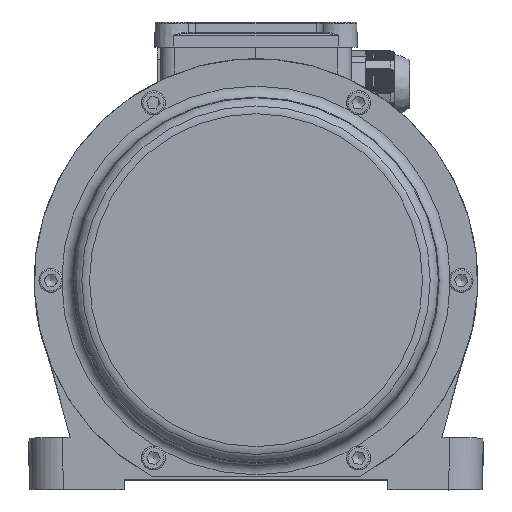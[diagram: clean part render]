
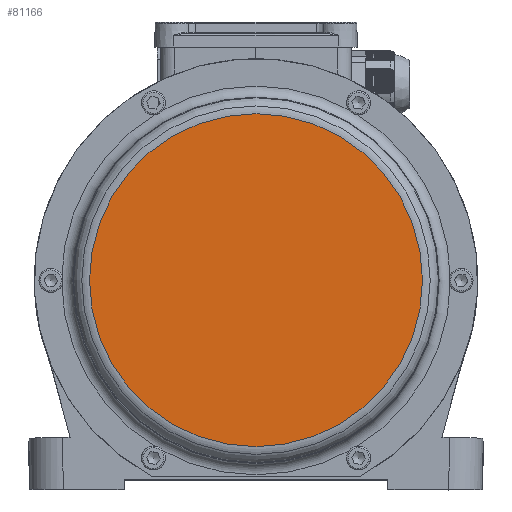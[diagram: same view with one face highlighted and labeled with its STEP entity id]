
A CAD part, top view. The second image highlights one B-rep face of the part: STEP entity #81166.
In plain terms, the highlighted planar face has unit normal (0, 0, 1).
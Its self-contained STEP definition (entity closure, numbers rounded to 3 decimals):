
#6214=PLANE('',#84875);
#10154=FACE_OUTER_BOUND('',#14647,.T.);
#14647=EDGE_LOOP('',(#66495));
#31853=CIRCLE('',#84876,69.8);
#37444=VERTEX_POINT('',#134985);
#47543=EDGE_CURVE('',#37444,#37444,#31853,.T.);
#66495=ORIENTED_EDGE('',*,*,#47543,.F.);
#81166=ADVANCED_FACE('',(#10154),#6214,.T.);
#84875=AXIS2_PLACEMENT_3D('',#134984,#96727,#96728);
#84876=AXIS2_PLACEMENT_3D('',#134986,#96729,#96730);
#96727=DIRECTION('center_axis',(0.,0.,
1.));
#96728=DIRECTION('ref_axis',(1.,0.,0.));
#96729=DIRECTION('center_axis',(0.,0.,
-1.));
#96730=DIRECTION('ref_axis',(0.,1.,0.));
#134984=CARTESIAN_POINT('Origin',(-0.096,35.427,
140.3));
#134985=CARTESIAN_POINT('',(69.704,0.527,140.3));
#134986=CARTESIAN_POINT('Origin',(-0.096,0.527,
140.3));
